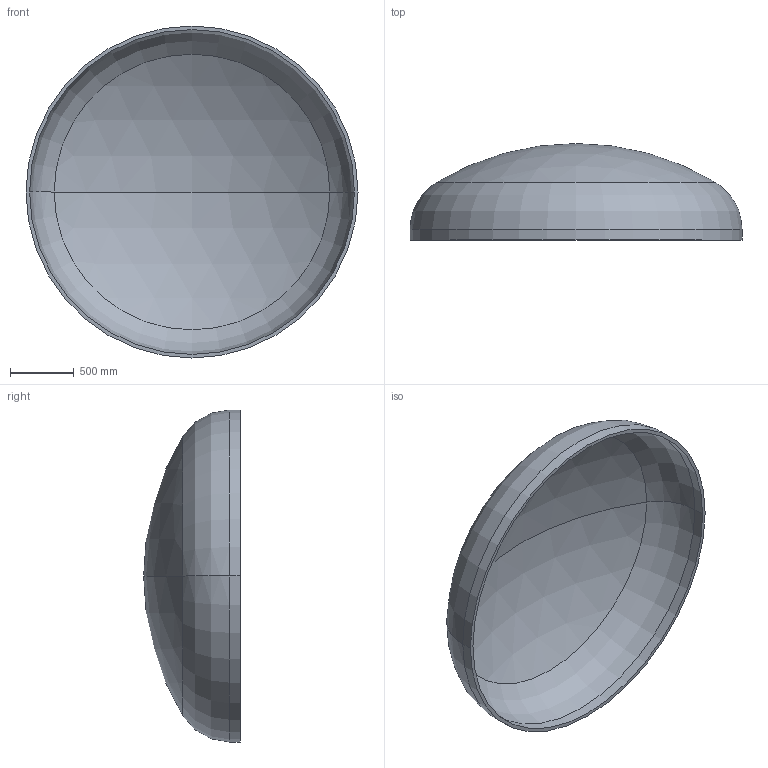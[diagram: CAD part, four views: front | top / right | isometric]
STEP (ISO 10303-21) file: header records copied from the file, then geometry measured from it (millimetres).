
FILE_DESCRIPTION (( 'STEP AP203' ), '1' );
FILE_NAME ('DIN 28013 Korbbogenform_-_Boden DIN 28013 - 2600 x 85 - I - s=28.step', '2016-07-01T16:03:38', ( '' ), ( '' ), 'SwSTEP 2.0', 'SolidWorks 2013', '' );
FILE_SCHEMA (( 'CONFIG_CONTROL_DESIGN' ));
Length unit declared in the file: millimetre
Products named in the file (1): DIN 28013 Korbbogenform_-_Boden DIN 28013 - 2600 x 85 - I - s=28
Bounding box: 2600 x 757.03 x 2600 mm (x, y, z)
Volume: 222171726.5 mm3; surface area: 16097290.2 mm2
Topology: 1 solids, 1 shells, 13 faces, 24 edges, 14 vertices
Faces by surface type: torus 4, cylinder 4, sphere 4, plane 1
Entity records: 407 total; most frequent: DIRECTION 72, CARTESIAN_POINT 52, ORIENTED_EDGE 48, AXIS2_PLACEMENT_3D 34, EDGE_CURVE 24, CIRCLE 20, EDGE_LOOP 14, VERTEX_POINT 14
